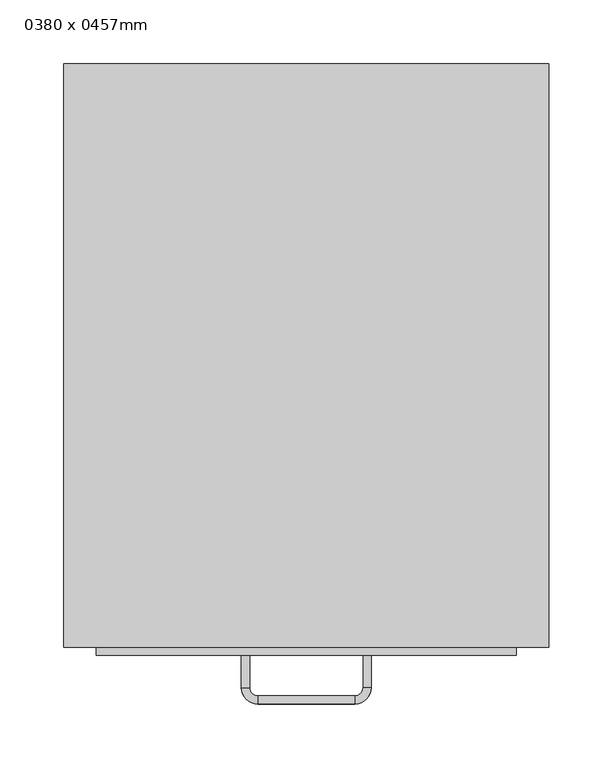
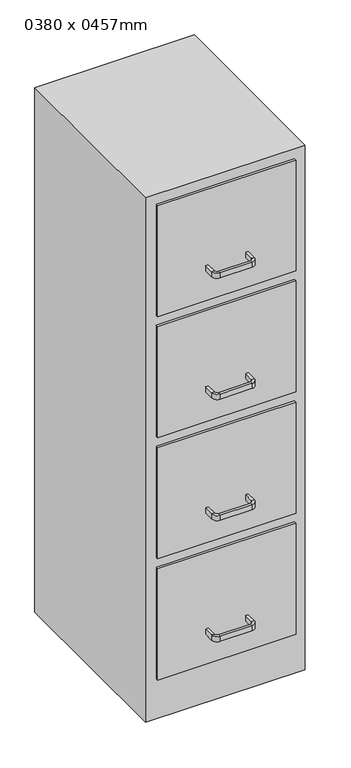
"""IFC4 building model written with IfcOpenShell, lengths in millimetres: furniture geometry, M_Armario-Archivador 4 cajones : 0380 x 0457mm."""

from ifc_helpers import new_model, si_unit, frame, origin, origin_with_axes, place, context, project, spatial, polyline, circle_curve, outline, extrude, source, transform, mapped, element, save
from ifc_brep_helpers import plane_surface, cylinder_surface, revolved_surface, advanced_brep


def furniture_0380_x_0457mm_9d2b133e(model_context):
    return source(origin(), model_context, "Body", "SolidModel", [
        extrude(outline(polyline([(36.703553, -376.9843001), (-292.496447, -376.9843001), (-292.496447, -370.6343001), (36.703553, -370.6343001), (36.703553, -376.9843001)])), frame((0.0, 0.0, 1016.0), z_axis=(0.0, 0.0, 1.0), x_axis=(1.0, 0.0, 0.0)), (0.0, 0.0, 1.0), 278.6),
        extrude(outline(polyline([(36.703553, -376.9843001), (-292.496447, -376.9843001), (-292.496447, -370.6343001), (36.703553, -370.6343001), (36.703553, -376.9843001)])), frame((0.0, 0.0, 711.2), z_axis=(0.0, 0.0, 1.0), x_axis=(1.0, 0.0, 0.0)), (0.0, 0.0, 1.0), 279.4),
        extrude(outline(polyline([(36.703553, -376.9843001), (-292.496447, -376.9843001), (-292.496447, -370.6343001), (36.703553, -370.6343001), (36.703553, -376.9843001)])), frame((0.0, 0.0, 406.4), z_axis=(0.0, 0.0, 1.0), x_axis=(1.0, 0.0, 0.0)), (0.0, 0.0, 1.0), 279.4),
        extrude(outline(polyline([(36.703553, -376.9843001), (-292.496447, -376.9843001), (-292.496447, -370.6343001), (36.703553, -370.6343001), (36.703553, -376.9843001)])), frame((0.0, 0.0, 101.6), z_axis=(0.0, 0.0, 1.0), x_axis=(1.0, 0.0, 0.0)), (0.0, 0.0, 1.0), 279.4),
        extrude(outline(polyline([(62.103553, 86.3656999), (62.103553, -370.6343001), (-317.896447, -370.6343001), (-317.896447, 86.3656999), (62.103553, 86.3656999)])), origin_with_axes(), (0.0, 0.0, 1.0), 1320.0),
        advanced_brep(
        [(-172.346447, -376.9843001, 177.8), (-178.696447, -376.9843001, 177.8), (-178.696447, -376.9843001, 190.5), (-172.346447, -376.9843001, 190.5), (-172.346447, -402.3843001, 177.8), (-178.696447, -402.3843001, 177.8), (-178.696447, -402.3843001, 190.5), (-172.346447, -402.3843001, 190.5), (-165.996447, -415.0843001, 177.8), (-165.996447, -408.7343001, 177.8), (-165.996447, -415.0843001, 190.5), (-165.996447, -408.7343001, 190.5), (-89.796447, -408.7343001, 177.8), (-89.796447, -415.0843001, 177.8), (-89.796447, -415.0843001, 190.5), (-89.796447, -408.7343001, 190.5), (-77.096447, -402.3843001, 177.8), (-83.446447, -402.3843001, 177.8), (-77.096447, -402.3843001, 190.5), (-83.446447, -402.3843001, 190.5), (-83.446447, -376.9843001, 177.8), (-83.446447, -376.9843001, 190.5), (-77.096447, -376.9843001, 190.5), (-77.096447, -376.9843001, 177.8)],
        [
            (0, 1),
            (1, 2),
            (2, 3),
            (3, 0),
            (0, 4),
            (4, 5),
            (5, 1),
            (5, 6),
            (6, 2),
            (6, 7),
            (7, 3),
            (7, 4),
            (8, 5, circle_curve(frame((-165.996447, -402.3843001, 177.8), z_axis=(0.0, 0.0, -1.0), x_axis=(-1.0, 0.0, 0.0)), 12.7)),
            (4, 9, circle_curve(frame((-165.996447, -402.3843001, 177.8), z_axis=(0.0, 0.0, 1.0), x_axis=(-1.0, 0.0, 0.0)), 6.35)),
            (9, 8),
            (10, 6, circle_curve(frame((-165.996447, -402.3843001, 190.5), z_axis=(0.0, 0.0, -1.0), x_axis=(-1.0, 0.0, 0.0)), 12.7)),
            (8, 10),
            (11, 7, circle_curve(frame((-165.996447, -402.3843001, 190.5), z_axis=(0.0, 0.0, -1.0), x_axis=(-1.0, 0.0, 0.0)), 6.35)),
            (10, 11),
            (11, 9),
            (9, 12),
            (12, 13),
            (13, 8),
            (13, 14),
            (14, 10),
            (14, 15),
            (15, 11),
            (15, 12),
            (16, 13, circle_curve(frame((-89.796447, -402.3843001, 177.8), z_axis=(0.0, 0.0, -1.0), x_axis=(0.0, -1.0, 0.0)), 12.7)),
            (12, 17, circle_curve(frame((-89.796447, -402.3843001, 177.8), z_axis=(0.0, 0.0, 1.0), x_axis=(0.0, -1.0, 0.0)), 6.35)),
            (17, 16),
            (18, 14, circle_curve(frame((-89.796447, -402.3843001, 190.5), z_axis=(0.0, 0.0, -1.0), x_axis=(0.0, -1.0, 0.0)), 12.7)),
            (16, 18),
            (19, 15, circle_curve(frame((-89.796447, -402.3843001, 190.5), z_axis=(0.0, 0.0, -1.0), x_axis=(0.0, -1.0, 0.0)), 6.35)),
            (18, 19),
            (19, 17),
            (20, 21),
            (21, 22),
            (22, 23),
            (23, 20),
            (17, 20),
            (23, 16),
            (22, 18),
            (21, 19),
        ],
        [
            plane_surface(frame((-1283.614694, -376.9843001, 0.0), z_axis=(0.0, 1.0, 0.0), x_axis=(0.0, 0.0, -1.0))),
            plane_surface(frame((-172.346447, -376.9843001, 177.8), z_axis=(0.0, 0.0, -1.0), x_axis=(0.0, -1.0, 0.0))),
            plane_surface(frame((-178.696447, -376.9843001, 177.8), z_axis=(-1.0, 0.0, 0.0), x_axis=(0.0, -1.0, 0.0))),
            plane_surface(frame((-178.696447, -376.9843001, 190.5), z_axis=(0.0, 0.0, 1.0), x_axis=(0.0, -1.0, 0.0))),
            plane_surface(frame((-172.346447, -376.9843001, 190.5), z_axis=(1.0, 0.0, 0.0), x_axis=(0.0, -1.0, 0.0))),
            plane_surface(frame((-165.996447, -402.3843001, 177.8), z_axis=(0.0, 0.0, -1.0), x_axis=(-1.0, 0.0, 0.0))),
            cylinder_surface(frame((-165.996447, -402.3843001, 0.0), z_axis=(0.0, 0.0, 1.0), x_axis=(-1.0, 0.0, 0.0)), 12.7),
            plane_surface(frame((-165.996447, -402.3843001, 190.5), z_axis=(0.0, 0.0, 1.0), x_axis=(-1.0, 0.0, 0.0))),
            revolved_surface(polyline([(-172.34644699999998, -402.3843001, 190.5), (-172.34644699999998, -402.3843001, 177.8)]), (-165.996447, -402.3843001, 0.0), (0.0, 0.0, 1.0)),
            plane_surface(frame((-165.996447, -408.7343001, 177.8), z_axis=(0.0, 0.0, -1.0), x_axis=(1.0, 0.0, 0.0))),
            plane_surface(frame((-165.996447, -415.0843001, 177.8), z_axis=(0.0, -1.0, 0.0), x_axis=(1.0, 0.0, 0.0))),
            plane_surface(frame((-165.996447, -415.0843001, 190.5), z_axis=(0.0, 0.0, 1.0), x_axis=(1.0, 0.0, 0.0))),
            plane_surface(frame((-165.996447, -408.7343001, 190.5), z_axis=(0.0, 1.0, 0.0), x_axis=(1.0, 0.0, 0.0))),
            plane_surface(frame((-89.796447, -402.3843001, 177.8), z_axis=(0.0, 0.0, -1.0), x_axis=(0.0, -1.0, 0.0))),
            cylinder_surface(frame((-89.796447, -402.3843001, 0.0), z_axis=(0.0, 0.0, 1.0), x_axis=(0.0, -1.0, 0.0)), 12.7),
            plane_surface(frame((-89.796447, -402.3843001, 190.5), z_axis=(0.0, 0.0, 1.0), x_axis=(0.0, -1.0, 0.0))),
            revolved_surface(polyline([(-89.796447, -408.73430010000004, 190.5), (-89.796447, -408.73430010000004, 177.8)]), (-89.796447, -402.3843001, 0.0), (0.0, 0.0, 1.0)),
            plane_surface(frame((-1182.014694, -376.9843001, 0.0), z_axis=(0.0, 1.0, 0.0), x_axis=(0.0, 0.0, 1.0))),
            plane_surface(frame((-83.446447, -402.3843001, 177.8), z_axis=(0.0, 0.0, -1.0), x_axis=(0.0, 1.0, 0.0))),
            plane_surface(frame((-77.096447, -402.3843001, 177.8), z_axis=(1.0, 0.0, 0.0), x_axis=(0.0, 1.0, 0.0))),
            plane_surface(frame((-77.096447, -402.3843001, 190.5), z_axis=(0.0, 0.0, 1.0), x_axis=(0.0, 1.0, 0.0))),
            plane_surface(frame((-83.446447, -402.3843001, 190.5), z_axis=(-1.0, 0.0, 0.0), x_axis=(0.0, 1.0, 0.0))),
        ],
        [
            (0, [[1, 2, 3, 4]]),
            (1, [[-1, 5, 6, 7]]),
            (2, [[-2, -7, 8, 9]]),
            (3, [[-3, -9, 10, 11]]),
            (4, [[-4, -11, 12, -5]]),
            (5, [[13, -6, 14, 15]]),
            (6, [[16, -8, -13, 17]]),
            (7, [[18, -10, -16, 19]]),
            (8, [[-14, -12, -18, 20]]),
            (9, [[-15, 21, 22, 23]]),
            (10, [[-17, -23, 24, 25]]),
            (11, [[-19, -25, 26, 27]]),
            (12, [[-20, -27, 28, -21]]),
            (13, [[29, -22, 30, 31]]),
            (14, [[32, -24, -29, 33]]),
            (15, [[34, -26, -32, 35]]),
            (16, [[-30, -28, -34, 36]]),
            (17, [[37, 38, 39, 40]]),
            (18, [[-31, 41, -40, 42]]),
            (19, [[-33, -42, -39, 43]]),
            (20, [[-35, -43, -38, 44]]),
            (21, [[-36, -44, -37, -41]]),
        ],
    ),
        advanced_brep(
        [(-172.346447, -376.9843001, 482.6), (-178.696447, -376.9843001, 482.6), (-178.696447, -376.9843001, 495.3), (-172.346447, -376.9843001, 495.3), (-172.346447, -402.3843001, 482.6), (-178.696447, -402.3843001, 482.6), (-178.696447, -402.3843001, 495.3), (-172.346447, -402.3843001, 495.3), (-165.996447, -415.0843001, 482.6), (-165.996447, -408.7343001, 482.6), (-165.996447, -415.0843001, 495.3), (-165.996447, -408.7343001, 495.3), (-89.796447, -408.7343001, 482.6), (-89.796447, -415.0843001, 482.6), (-89.796447, -415.0843001, 495.3), (-89.796447, -408.7343001, 495.3), (-77.096447, -402.3843001, 482.6), (-83.446447, -402.3843001, 482.6), (-77.096447, -402.3843001, 495.3), (-83.446447, -402.3843001, 495.3), (-83.446447, -376.9843001, 482.6), (-83.446447, -376.9843001, 495.3), (-77.096447, -376.9843001, 495.3), (-77.096447, -376.9843001, 482.6)],
        [
            (0, 1),
            (1, 2),
            (2, 3),
            (3, 0),
            (0, 4),
            (4, 5),
            (5, 1),
            (5, 6),
            (6, 2),
            (6, 7),
            (7, 3),
            (7, 4),
            (8, 5, circle_curve(frame((-165.996447, -402.3843001, 482.6), z_axis=(0.0, 0.0, -1.0), x_axis=(-1.0, 0.0, 0.0)), 12.7)),
            (4, 9, circle_curve(frame((-165.996447, -402.3843001, 482.6), z_axis=(0.0, 0.0, 1.0), x_axis=(-1.0, 0.0, 0.0)), 6.35)),
            (9, 8),
            (10, 6, circle_curve(frame((-165.996447, -402.3843001, 495.3), z_axis=(0.0, 0.0, -1.0), x_axis=(-1.0, 0.0, 0.0)), 12.7)),
            (8, 10),
            (11, 7, circle_curve(frame((-165.996447, -402.3843001, 495.3), z_axis=(0.0, 0.0, -1.0), x_axis=(-1.0, 0.0, 0.0)), 6.35)),
            (10, 11),
            (11, 9),
            (9, 12),
            (12, 13),
            (13, 8),
            (13, 14),
            (14, 10),
            (14, 15),
            (15, 11),
            (15, 12),
            (16, 13, circle_curve(frame((-89.796447, -402.3843001, 482.6), z_axis=(0.0, 0.0, -1.0), x_axis=(0.0, -1.0, 0.0)), 12.7)),
            (12, 17, circle_curve(frame((-89.796447, -402.3843001, 482.6), z_axis=(0.0, 0.0, 1.0), x_axis=(0.0, -1.0, 0.0)), 6.35)),
            (17, 16),
            (18, 14, circle_curve(frame((-89.796447, -402.3843001, 495.3), z_axis=(0.0, 0.0, -1.0), x_axis=(0.0, -1.0, 0.0)), 12.7)),
            (16, 18),
            (19, 15, circle_curve(frame((-89.796447, -402.3843001, 495.3), z_axis=(0.0, 0.0, -1.0), x_axis=(0.0, -1.0, 0.0)), 6.35)),
            (18, 19),
            (19, 17),
            (20, 21),
            (21, 22),
            (22, 23),
            (23, 20),
            (17, 20),
            (23, 16),
            (22, 18),
            (21, 19),
        ],
        [
            plane_surface(frame((-1283.614694, -376.9843001, 0.0), z_axis=(0.0, 1.0, 0.0), x_axis=(0.0, 0.0, -1.0))),
            plane_surface(frame((-172.346447, -376.9843001, 482.6), z_axis=(0.0, 0.0, -1.0), x_axis=(0.0, -1.0, 0.0))),
            plane_surface(frame((-178.696447, -376.9843001, 482.6), z_axis=(-1.0, 0.0, 0.0), x_axis=(0.0, -1.0, 0.0))),
            plane_surface(frame((-178.696447, -376.9843001, 495.3), z_axis=(0.0, 0.0, 1.0), x_axis=(0.0, -1.0, 0.0))),
            plane_surface(frame((-172.346447, -376.9843001, 495.3), z_axis=(1.0, 0.0, 0.0), x_axis=(0.0, -1.0, 0.0))),
            plane_surface(frame((-165.996447, -402.3843001, 482.6), z_axis=(0.0, 0.0, -1.0), x_axis=(-1.0, 0.0, 0.0))),
            cylinder_surface(frame((-165.996447, -402.3843001, 0.0), z_axis=(0.0, 0.0, 1.0), x_axis=(-1.0, 0.0, 0.0)), 12.7),
            plane_surface(frame((-165.996447, -402.3843001, 495.3), z_axis=(0.0, 0.0, 1.0), x_axis=(-1.0, 0.0, 0.0))),
            revolved_surface(polyline([(-172.34644699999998, -402.3843001, 495.3), (-172.34644699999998, -402.3843001, 482.6)]), (-165.996447, -402.3843001, 0.0), (0.0, 0.0, 1.0)),
            plane_surface(frame((-165.996447, -408.7343001, 482.6), z_axis=(0.0, 0.0, -1.0), x_axis=(1.0, 0.0, 0.0))),
            plane_surface(frame((-165.996447, -415.0843001, 482.6), z_axis=(0.0, -1.0, 0.0), x_axis=(1.0, 0.0, 0.0))),
            plane_surface(frame((-165.996447, -415.0843001, 495.3), z_axis=(0.0, 0.0, 1.0), x_axis=(1.0, 0.0, 0.0))),
            plane_surface(frame((-165.996447, -408.7343001, 495.3), z_axis=(0.0, 1.0, 0.0), x_axis=(1.0, 0.0, 0.0))),
            plane_surface(frame((-89.796447, -402.3843001, 482.6), z_axis=(0.0, 0.0, -1.0), x_axis=(0.0, -1.0, 0.0))),
            cylinder_surface(frame((-89.796447, -402.3843001, 0.0), z_axis=(0.0, 0.0, 1.0), x_axis=(0.0, -1.0, 0.0)), 12.7),
            plane_surface(frame((-89.796447, -402.3843001, 495.3), z_axis=(0.0, 0.0, 1.0), x_axis=(0.0, -1.0, 0.0))),
            revolved_surface(polyline([(-89.796447, -408.73430010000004, 495.3), (-89.796447, -408.73430010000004, 482.6)]), (-89.796447, -402.3843001, 0.0), (0.0, 0.0, 1.0)),
            plane_surface(frame((-1182.014694, -376.9843001, 0.0), z_axis=(0.0, 1.0, 0.0), x_axis=(0.0, 0.0, 1.0))),
            plane_surface(frame((-83.446447, -402.3843001, 482.6), z_axis=(0.0, 0.0, -1.0), x_axis=(0.0, 1.0, 0.0))),
            plane_surface(frame((-77.096447, -402.3843001, 482.6), z_axis=(1.0, 0.0, 0.0), x_axis=(0.0, 1.0, 0.0))),
            plane_surface(frame((-77.096447, -402.3843001, 495.3), z_axis=(0.0, 0.0, 1.0), x_axis=(0.0, 1.0, 0.0))),
            plane_surface(frame((-83.446447, -402.3843001, 495.3), z_axis=(-1.0, 0.0, 0.0), x_axis=(0.0, 1.0, 0.0))),
        ],
        [
            (0, [[1, 2, 3, 4]]),
            (1, [[-1, 5, 6, 7]]),
            (2, [[-2, -7, 8, 9]]),
            (3, [[-3, -9, 10, 11]]),
            (4, [[-4, -11, 12, -5]]),
            (5, [[13, -6, 14, 15]]),
            (6, [[16, -8, -13, 17]]),
            (7, [[18, -10, -16, 19]]),
            (8, [[-14, -12, -18, 20]]),
            (9, [[-15, 21, 22, 23]]),
            (10, [[-17, -23, 24, 25]]),
            (11, [[-19, -25, 26, 27]]),
            (12, [[-20, -27, 28, -21]]),
            (13, [[29, -22, 30, 31]]),
            (14, [[32, -24, -29, 33]]),
            (15, [[34, -26, -32, 35]]),
            (16, [[-30, -28, -34, 36]]),
            (17, [[37, 38, 39, 40]]),
            (18, [[-31, 41, -40, 42]]),
            (19, [[-33, -42, -39, 43]]),
            (20, [[-35, -43, -38, 44]]),
            (21, [[-36, -44, -37, -41]]),
        ],
    ),
        advanced_brep(
        [(-172.346447, -376.9843001, 787.4), (-178.696447, -376.9843001, 787.4), (-178.696447, -376.9843001, 800.1), (-172.346447, -376.9843001, 800.1), (-172.346447, -402.3843001, 787.4), (-178.696447, -402.3843001, 787.4), (-178.696447, -402.3843001, 800.1), (-172.346447, -402.3843001, 800.1), (-165.996447, -415.0843001, 787.4), (-165.996447, -408.7343001, 787.4), (-165.996447, -415.0843001, 800.1), (-165.996447, -408.7343001, 800.1), (-89.796447, -408.7343001, 787.4), (-89.796447, -415.0843001, 787.4), (-89.796447, -415.0843001, 800.1), (-89.796447, -408.7343001, 800.1), (-77.096447, -402.3843001, 787.4), (-83.446447, -402.3843001, 787.4), (-77.096447, -402.3843001, 800.1), (-83.446447, -402.3843001, 800.1), (-83.446447, -376.9843001, 787.4), (-83.446447, -376.9843001, 800.1), (-77.096447, -376.9843001, 800.1), (-77.096447, -376.9843001, 787.4)],
        [
            (0, 1),
            (1, 2),
            (2, 3),
            (3, 0),
            (0, 4),
            (4, 5),
            (5, 1),
            (5, 6),
            (6, 2),
            (6, 7),
            (7, 3),
            (7, 4),
            (8, 5, circle_curve(frame((-165.996447, -402.3843001, 787.4), z_axis=(0.0, 0.0, -1.0), x_axis=(-1.0, 0.0, 0.0)), 12.7)),
            (4, 9, circle_curve(frame((-165.996447, -402.3843001, 787.4), z_axis=(0.0, 0.0, 1.0), x_axis=(-1.0, 0.0, 0.0)), 6.35)),
            (9, 8),
            (10, 6, circle_curve(frame((-165.996447, -402.3843001, 800.1), z_axis=(0.0, 0.0, -1.0), x_axis=(-1.0, 0.0, 0.0)), 12.7)),
            (8, 10),
            (11, 7, circle_curve(frame((-165.996447, -402.3843001, 800.1), z_axis=(0.0, 0.0, -1.0), x_axis=(-1.0, 0.0, 0.0)), 6.35)),
            (10, 11),
            (11, 9),
            (9, 12),
            (12, 13),
            (13, 8),
            (13, 14),
            (14, 10),
            (14, 15),
            (15, 11),
            (15, 12),
            (16, 13, circle_curve(frame((-89.796447, -402.3843001, 787.4), z_axis=(0.0, 0.0, -1.0), x_axis=(0.0, -1.0, 0.0)), 12.7)),
            (12, 17, circle_curve(frame((-89.796447, -402.3843001, 787.4), z_axis=(0.0, 0.0, 1.0), x_axis=(0.0, -1.0, 0.0)), 6.35)),
            (17, 16),
            (18, 14, circle_curve(frame((-89.796447, -402.3843001, 800.1), z_axis=(0.0, 0.0, -1.0), x_axis=(0.0, -1.0, 0.0)), 12.7)),
            (16, 18),
            (19, 15, circle_curve(frame((-89.796447, -402.3843001, 800.1), z_axis=(0.0, 0.0, -1.0), x_axis=(0.0, -1.0, 0.0)), 6.35)),
            (18, 19),
            (19, 17),
            (20, 21),
            (21, 22),
            (22, 23),
            (23, 20),
            (17, 20),
            (23, 16),
            (22, 18),
            (21, 19),
        ],
        [
            plane_surface(frame((-1283.614694, -376.9843001, 0.0), z_axis=(0.0, 1.0, 0.0), x_axis=(0.0, 0.0, -1.0))),
            plane_surface(frame((-172.346447, -376.9843001, 787.4), z_axis=(0.0, 0.0, -1.0), x_axis=(0.0, -1.0, 0.0))),
            plane_surface(frame((-178.696447, -376.9843001, 787.4), z_axis=(-1.0, 0.0, 0.0), x_axis=(0.0, -1.0, 0.0))),
            plane_surface(frame((-178.696447, -376.9843001, 800.1), z_axis=(0.0, 0.0, 1.0), x_axis=(0.0, -1.0, 0.0))),
            plane_surface(frame((-172.346447, -376.9843001, 800.1), z_axis=(1.0, 0.0, 0.0), x_axis=(0.0, -1.0, 0.0))),
            plane_surface(frame((-165.996447, -402.3843001, 787.4), z_axis=(0.0, 0.0, -1.0), x_axis=(-1.0, 0.0, 0.0))),
            cylinder_surface(frame((-165.996447, -402.3843001, 0.0), z_axis=(0.0, 0.0, 1.0), x_axis=(-1.0, 0.0, 0.0)), 12.7),
            plane_surface(frame((-165.996447, -402.3843001, 800.1), z_axis=(0.0, 0.0, 1.0), x_axis=(-1.0, 0.0, 0.0))),
            revolved_surface(polyline([(-172.34644699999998, -402.3843001, 800.1), (-172.34644699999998, -402.3843001, 787.4)]), (-165.996447, -402.3843001, 0.0), (0.0, 0.0, 1.0)),
            plane_surface(frame((-165.996447, -408.7343001, 787.4), z_axis=(0.0, 0.0, -1.0), x_axis=(1.0, 0.0, 0.0))),
            plane_surface(frame((-165.996447, -415.0843001, 787.4), z_axis=(0.0, -1.0, 0.0), x_axis=(1.0, 0.0, 0.0))),
            plane_surface(frame((-165.996447, -415.0843001, 800.1), z_axis=(0.0, 0.0, 1.0), x_axis=(1.0, 0.0, 0.0))),
            plane_surface(frame((-165.996447, -408.7343001, 800.1), z_axis=(0.0, 1.0, 0.0), x_axis=(1.0, 0.0, 0.0))),
            plane_surface(frame((-89.796447, -402.3843001, 787.4), z_axis=(0.0, 0.0, -1.0), x_axis=(0.0, -1.0, 0.0))),
            cylinder_surface(frame((-89.796447, -402.3843001, 0.0), z_axis=(0.0, 0.0, 1.0), x_axis=(0.0, -1.0, 0.0)), 12.7),
            plane_surface(frame((-89.796447, -402.3843001, 800.1), z_axis=(0.0, 0.0, 1.0), x_axis=(0.0, -1.0, 0.0))),
            revolved_surface(polyline([(-89.796447, -408.73430010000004, 800.1), (-89.796447, -408.73430010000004, 787.4)]), (-89.796447, -402.3843001, 0.0), (0.0, 0.0, 1.0)),
            plane_surface(frame((-1182.014694, -376.9843001, 0.0), z_axis=(0.0, 1.0, 0.0), x_axis=(0.0, 0.0, 1.0))),
            plane_surface(frame((-83.446447, -402.3843001, 787.4), z_axis=(0.0, 0.0, -1.0), x_axis=(0.0, 1.0, 0.0))),
            plane_surface(frame((-77.096447, -402.3843001, 787.4), z_axis=(1.0, 0.0, 0.0), x_axis=(0.0, 1.0, 0.0))),
            plane_surface(frame((-77.096447, -402.3843001, 800.1), z_axis=(0.0, 0.0, 1.0), x_axis=(0.0, 1.0, 0.0))),
            plane_surface(frame((-83.446447, -402.3843001, 800.1), z_axis=(-1.0, 0.0, 0.0), x_axis=(0.0, 1.0, 0.0))),
        ],
        [
            (0, [[1, 2, 3, 4]]),
            (1, [[-1, 5, 6, 7]]),
            (2, [[-2, -7, 8, 9]]),
            (3, [[-3, -9, 10, 11]]),
            (4, [[-4, -11, 12, -5]]),
            (5, [[13, -6, 14, 15]]),
            (6, [[16, -8, -13, 17]]),
            (7, [[18, -10, -16, 19]]),
            (8, [[-14, -12, -18, 20]]),
            (9, [[-15, 21, 22, 23]]),
            (10, [[-17, -23, 24, 25]]),
            (11, [[-19, -25, 26, 27]]),
            (12, [[-20, -27, 28, -21]]),
            (13, [[29, -22, 30, 31]]),
            (14, [[32, -24, -29, 33]]),
            (15, [[34, -26, -32, 35]]),
            (16, [[-30, -28, -34, 36]]),
            (17, [[37, 38, 39, 40]]),
            (18, [[-31, 41, -40, 42]]),
            (19, [[-33, -42, -39, 43]]),
            (20, [[-35, -43, -38, 44]]),
            (21, [[-36, -44, -37, -41]]),
        ],
    ),
        advanced_brep(
        [(-172.346447, -376.9843001, 1092.2), (-178.696447, -376.9843001, 1092.2), (-178.696447, -376.9843001, 1104.9), (-172.346447, -376.9843001, 1104.9), (-172.346447, -402.3843001, 1092.2), (-178.696447, -402.3843001, 1092.2), (-178.696447, -402.3843001, 1104.9), (-172.346447, -402.3843001, 1104.9), (-165.996447, -415.0843001, 1092.2), (-165.996447, -408.7343001, 1092.2), (-165.996447, -415.0843001, 1104.9), (-165.996447, -408.7343001, 1104.9), (-89.796447, -408.7343001, 1092.2), (-89.796447, -415.0843001, 1092.2), (-89.796447, -415.0843001, 1104.9), (-89.796447, -408.7343001, 1104.9), (-77.096447, -402.3843001, 1092.2), (-83.446447, -402.3843001, 1092.2), (-77.096447, -402.3843001, 1104.9), (-83.446447, -402.3843001, 1104.9), (-83.446447, -376.9843001, 1092.2), (-83.446447, -376.9843001, 1104.9), (-77.096447, -376.9843001, 1104.9), (-77.096447, -376.9843001, 1092.2)],
        [
            (0, 1),
            (1, 2),
            (2, 3),
            (3, 0),
            (0, 4),
            (4, 5),
            (5, 1),
            (5, 6),
            (6, 2),
            (6, 7),
            (7, 3),
            (7, 4),
            (8, 5, circle_curve(frame((-165.996447, -402.3843001, 1092.2), z_axis=(0.0, 0.0, -1.0), x_axis=(-1.0, 0.0, 0.0)), 12.7)),
            (4, 9, circle_curve(frame((-165.996447, -402.3843001, 1092.2), z_axis=(0.0, 0.0, 1.0), x_axis=(-1.0, 0.0, 0.0)), 6.35)),
            (9, 8),
            (10, 6, circle_curve(frame((-165.996447, -402.3843001, 1104.9), z_axis=(0.0, 0.0, -1.0), x_axis=(-1.0, 0.0, 0.0)), 12.7)),
            (8, 10),
            (11, 7, circle_curve(frame((-165.996447, -402.3843001, 1104.9), z_axis=(0.0, 0.0, -1.0), x_axis=(-1.0, 0.0, 0.0)), 6.35)),
            (10, 11),
            (11, 9),
            (9, 12),
            (12, 13),
            (13, 8),
            (13, 14),
            (14, 10),
            (14, 15),
            (15, 11),
            (15, 12),
            (16, 13, circle_curve(frame((-89.796447, -402.3843001, 1092.2), z_axis=(0.0, 0.0, -1.0), x_axis=(0.0, -1.0, 0.0)), 12.7)),
            (12, 17, circle_curve(frame((-89.796447, -402.3843001, 1092.2), z_axis=(0.0, 0.0, 1.0), x_axis=(0.0, -1.0, 0.0)), 6.35)),
            (17, 16),
            (18, 14, circle_curve(frame((-89.796447, -402.3843001, 1104.9), z_axis=(0.0, 0.0, -1.0), x_axis=(0.0, -1.0, 0.0)), 12.7)),
            (16, 18),
            (19, 15, circle_curve(frame((-89.796447, -402.3843001, 1104.9), z_axis=(0.0, 0.0, -1.0), x_axis=(0.0, -1.0, 0.0)), 6.35)),
            (18, 19),
            (19, 17),
            (20, 21),
            (21, 22),
            (22, 23),
            (23, 20),
            (17, 20),
            (23, 16),
            (22, 18),
            (21, 19),
        ],
        [
            plane_surface(frame((-1283.614694, -376.9843001, 0.0), z_axis=(0.0, 1.0, 0.0), x_axis=(0.0, 0.0, -1.0))),
            plane_surface(frame((-172.346447, -376.9843001, 1092.2), z_axis=(0.0, 0.0, -1.0), x_axis=(0.0, -1.0, 0.0))),
            plane_surface(frame((-178.696447, -376.9843001, 1092.2), z_axis=(-1.0, 0.0, 0.0), x_axis=(0.0, -1.0, 0.0))),
            plane_surface(frame((-178.696447, -376.9843001, 1104.9), z_axis=(0.0, 0.0, 1.0), x_axis=(0.0, -1.0, 0.0))),
            plane_surface(frame((-172.346447, -376.9843001, 1104.9), z_axis=(1.0, 0.0, 0.0), x_axis=(0.0, -1.0, 0.0))),
            plane_surface(frame((-165.996447, -402.3843001, 1092.2), z_axis=(0.0, 0.0, -1.0), x_axis=(-1.0, 0.0, 0.0))),
            cylinder_surface(frame((-165.996447, -402.3843001, 0.0), z_axis=(0.0, 0.0, 1.0), x_axis=(-1.0, 0.0, 0.0)), 12.7),
            plane_surface(frame((-165.996447, -402.3843001, 1104.9), z_axis=(0.0, 0.0, 1.0), x_axis=(-1.0, 0.0, 0.0))),
            revolved_surface(polyline([(-172.34644699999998, -402.3843001, 1104.9), (-172.34644699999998, -402.3843001, 1092.2)]), (-165.996447, -402.3843001, 0.0), (0.0, 0.0, 1.0)),
            plane_surface(frame((-165.996447, -408.7343001, 1092.2), z_axis=(0.0, 0.0, -1.0), x_axis=(1.0, 0.0, 0.0))),
            plane_surface(frame((-165.996447, -415.0843001, 1092.2), z_axis=(0.0, -1.0, 0.0), x_axis=(1.0, 0.0, 0.0))),
            plane_surface(frame((-165.996447, -415.0843001, 1104.9), z_axis=(0.0, 0.0, 1.0), x_axis=(1.0, 0.0, 0.0))),
            plane_surface(frame((-165.996447, -408.7343001, 1104.9), z_axis=(0.0, 1.0, 0.0), x_axis=(1.0, 0.0, 0.0))),
            plane_surface(frame((-89.796447, -402.3843001, 1092.2), z_axis=(0.0, 0.0, -1.0), x_axis=(0.0, -1.0, 0.0))),
            cylinder_surface(frame((-89.796447, -402.3843001, 0.0), z_axis=(0.0, 0.0, 1.0), x_axis=(0.0, -1.0, 0.0)), 12.7),
            plane_surface(frame((-89.796447, -402.3843001, 1104.9), z_axis=(0.0, 0.0, 1.0), x_axis=(0.0, -1.0, 0.0))),
            revolved_surface(polyline([(-89.796447, -408.73430010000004, 1104.9), (-89.796447, -408.73430010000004, 1092.2)]), (-89.796447, -402.3843001, 0.0), (0.0, 0.0, 1.0)),
            plane_surface(frame((-1182.014694, -376.9843001, 0.0), z_axis=(0.0, 1.0, 0.0), x_axis=(0.0, 0.0, 1.0))),
            plane_surface(frame((-83.446447, -402.3843001, 1092.2), z_axis=(0.0, 0.0, -1.0), x_axis=(0.0, 1.0, 0.0))),
            plane_surface(frame((-77.096447, -402.3843001, 1092.2), z_axis=(1.0, 0.0, 0.0), x_axis=(0.0, 1.0, 0.0))),
            plane_surface(frame((-77.096447, -402.3843001, 1104.9), z_axis=(0.0, 0.0, 1.0), x_axis=(0.0, 1.0, 0.0))),
            plane_surface(frame((-83.446447, -402.3843001, 1104.9), z_axis=(-1.0, 0.0, 0.0), x_axis=(0.0, 1.0, 0.0))),
        ],
        [
            (0, [[1, 2, 3, 4]]),
            (1, [[-1, 5, 6, 7]]),
            (2, [[-2, -7, 8, 9]]),
            (3, [[-3, -9, 10, 11]]),
            (4, [[-4, -11, 12, -5]]),
            (5, [[13, -6, 14, 15]]),
            (6, [[16, -8, -13, 17]]),
            (7, [[18, -10, -16, 19]]),
            (8, [[-14, -12, -18, 20]]),
            (9, [[-15, 21, 22, 23]]),
            (10, [[-17, -23, 24, 25]]),
            (11, [[-19, -25, 26, 27]]),
            (12, [[-20, -27, 28, -21]]),
            (13, [[29, -22, 30, 31]]),
            (14, [[32, -24, -29, 33]]),
            (15, [[34, -26, -32, 35]]),
            (16, [[-30, -28, -34, 36]]),
            (17, [[37, 38, 39, 40]]),
            (18, [[-31, 41, -40, 42]]),
            (19, [[-33, -42, -39, 43]]),
            (20, [[-35, -43, -38, 44]]),
            (21, [[-36, -44, -37, -41]]),
        ],
    ),
    ])


if __name__ == "__main__":
    model = new_model("IFC4")
    model_context = context("Model", 3, world=origin())
    ifc_project = project(units=[si_unit("LENGTHUNIT", "METRE", prefix="MILLI")], contexts=[model_context])
    site = spatial("IfcSite", under=ifc_project)
    building = spatial("IfcBuilding", under=site)
    placement = place(None, origin())
    furniture_0380_x_0457mm_shape = furniture_0380_x_0457mm_9d2b133e(model_context)
    element("IfcFurniture", 1, ObjectType="M_Armario-Archivador 4 cajones : 0380 x 0457mm", at=placement, inside=building, context=model_context, shape_type="MappedRepresentation", body=[
        mapped(furniture_0380_x_0457mm_shape, transform((0.0, 0.0, 0.0), x_axis=(1.0, 0.0, 0.0), y_axis=(0.0, 1.0, 0.0), z_axis=(0.0, 0.0, 1.0))),
    ])
    save(model, "model.ifc")
